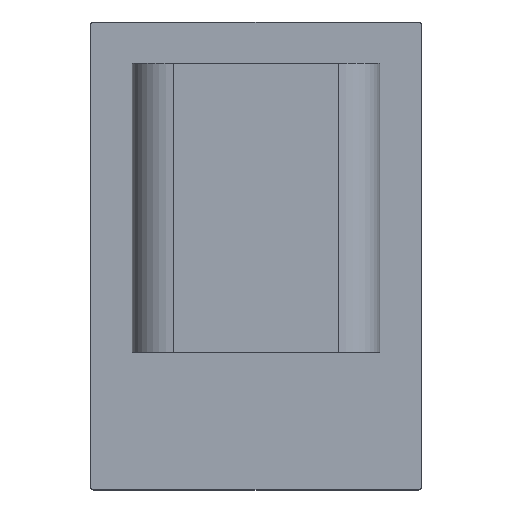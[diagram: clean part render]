
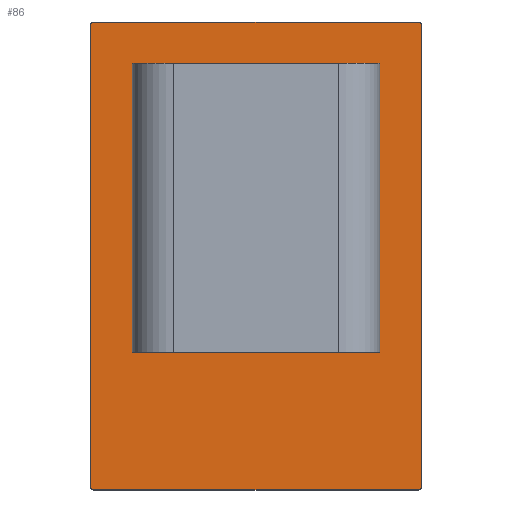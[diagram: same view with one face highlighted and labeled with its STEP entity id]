
A CAD part, top view. The second image highlights one B-rep face of the part: STEP entity #86.
In plain terms, the highlighted planar face has unit normal (0, 0, 1).
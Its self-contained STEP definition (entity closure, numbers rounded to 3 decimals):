
#7 = CIRCLE ( 'NONE', #1528, 51. ) ;
#24 = VECTOR ( 'NONE', #1769, 1000. ) ;
#43 = EDGE_CURVE ( 'NONE', #1497, #1481, #1710, .T. ) ;
#66 = CARTESIAN_POINT ( 'NONE',  ( -120., 170., 2.5 ) ) ;
#79 = DIRECTION ( 'NONE',  ( 0., 0., 1. ) ) ;
#86 = ADVANCED_FACE ( 'NONE', ( #1495, #1890 ), #700, .T. ) ;
#91 = DIRECTION ( 'NONE',  ( 0., 1., 0. ) ) ;
#102 = CIRCLE ( 'NONE', #1382, 2. ) ;
#103 = ORIENTED_EDGE ( 'NONE', *, *, #502, .T. ) ;
#111 = ORIENTED_EDGE ( 'NONE', *, *, #431, .F. ) ;
#143 = LINE ( 'NONE', #66, #1737 ) ;
#148 = CARTESIAN_POINT ( 'NONE',  ( 0., 35., 2.5 ) ) ;
#155 = ORIENTED_EDGE ( 'NONE', *, *, #1484, .T. ) ;
#157 = DIRECTION ( 'NONE',  ( 0., 0., 1. ) ) ;
#165 = CARTESIAN_POINT ( 'NONE',  ( 118., 170., 2.5 ) ) ;
#211 = DIRECTION ( 'NONE',  ( 0., -1., 0. ) ) ;
#224 = CARTESIAN_POINT ( 'NONE',  ( 0., 35., 2.5 ) ) ;
#232 = CARTESIAN_POINT ( 'NONE',  ( -118., 170., 2.5 ) ) ;
#233 = CARTESIAN_POINT ( 'NONE',  ( -120., 170., 2.5 ) ) ;
#237 = DIRECTION ( 'NONE',  ( 0., -1., 0. ) ) ;
#247 = VERTEX_POINT ( 'NONE', #1937 ) ;
#261 = CARTESIAN_POINT ( 'NONE',  ( 118., 168., 2.5 ) ) ;
#263 = CARTESIAN_POINT ( 'NONE',  ( 120., 170., 2.5 ) ) ;
#294 = EDGE_LOOP ( 'NONE', ( #1280, #111 ) ) ;
#323 = AXIS2_PLACEMENT_3D ( 'NONE', #261, #79, #237 ) ;
#347 = EDGE_CURVE ( 'NONE', #396, #787, #1186, .T. ) ;
#352 = DIRECTION ( 'NONE',  ( 0., 0., 1. ) ) ;
#394 = ORIENTED_EDGE ( 'NONE', *, *, #43, .T. ) ;
#396 = VERTEX_POINT ( 'NONE', #232 ) ;
#431 = EDGE_CURVE ( 'NONE', #1210, #476, #7, .T. ) ;
#432 = EDGE_LOOP ( 'NONE', ( #103, #755, #155, #394, #950, #1930, #1962, #1517 ) ) ;
#476 = VERTEX_POINT ( 'NONE', #1686 ) ;
#489 = CARTESIAN_POINT ( 'NONE',  ( 118., -168., 2.5 ) ) ;
#494 = CIRCLE ( 'NONE', #773, 2. ) ;
#502 = EDGE_CURVE ( 'NONE', #247, #789, #1735, .T. ) ;
#507 = CARTESIAN_POINT ( 'NONE',  ( -118., -168., 2.5 ) ) ;
#691 = CARTESIAN_POINT ( 'NONE',  ( 118., -170., 2.5 ) ) ;
#700 = PLANE ( 'NONE',  #1313 ) ;
#755 = ORIENTED_EDGE ( 'NONE', *, *, #847, .T. ) ;
#756 = CIRCLE ( 'NONE', #1817, 51. ) ;
#773 = AXIS2_PLACEMENT_3D ( 'NONE', #507, #352, #1423 ) ;
#787 = VERTEX_POINT ( 'NONE', #1147 ) ;
#789 = VERTEX_POINT ( 'NONE', #691 ) ;
#804 = DIRECTION ( 'NONE',  ( 0., 0., 1. ) ) ;
#847 = EDGE_CURVE ( 'NONE', #789, #1524, #102, .T. ) ;
#853 = DIRECTION ( 'NONE',  ( 0., 0., 1. ) ) ;
#915 = EDGE_CURVE ( 'NONE', #953, #247, #494, .T. ) ;
#926 = VECTOR ( 'NONE', #1220, 1000. ) ;
#940 = DIRECTION ( 'NONE',  ( 0., -1., 0. ) ) ;
#946 = CARTESIAN_POINT ( 'NONE',  ( -120., -168., 2.5 ) ) ;
#950 = ORIENTED_EDGE ( 'NONE', *, *, #1732, .T. ) ;
#953 = VERTEX_POINT ( 'NONE', #946 ) ;
#988 = CARTESIAN_POINT ( 'NONE',  ( 0., 86., 2.5 ) ) ;
#1020 = CARTESIAN_POINT ( 'NONE',  ( 120., -168., 2.5 ) ) ;
#1115 = VECTOR ( 'NONE', #91, 1000. ) ;
#1132 = DIRECTION ( 'NONE',  ( -1., 0., 0. ) ) ;
#1147 = CARTESIAN_POINT ( 'NONE',  ( -120., 168., 2.5 ) ) ;
#1186 = CIRCLE ( 'NONE', #1258, 2. ) ;
#1201 = LINE ( 'NONE', #233, #24 ) ;
#1210 = VERTEX_POINT ( 'NONE', #988 ) ;
#1220 = DIRECTION ( 'NONE',  ( 1., 0., 0. ) ) ;
#1258 = AXIS2_PLACEMENT_3D ( 'NONE', #1905, #1451, #1306 ) ;
#1280 = ORIENTED_EDGE ( 'NONE', *, *, #1768, .F. ) ;
#1306 = DIRECTION ( 'NONE',  ( 0., -1., 0. ) ) ;
#1311 = CARTESIAN_POINT ( 'NONE',  ( 0., 0., 2.5 ) ) ;
#1313 = AXIS2_PLACEMENT_3D ( 'NONE', #1311, #853, #1940 ) ;
#1382 = AXIS2_PLACEMENT_3D ( 'NONE', #489, #804, #1551 ) ;
#1423 = DIRECTION ( 'NONE',  ( 0., -1., 0. ) ) ;
#1451 = DIRECTION ( 'NONE',  ( 0., 0., 1. ) ) ;
#1481 = VERTEX_POINT ( 'NONE', #165 ) ;
#1484 = EDGE_CURVE ( 'NONE', #1524, #1497, #1918, .T. ) ;
#1495 = FACE_BOUND ( 'NONE', #294, .T. ) ;
#1497 = VERTEX_POINT ( 'NONE', #1943 ) ;
#1517 = ORIENTED_EDGE ( 'NONE', *, *, #915, .T. ) ;
#1524 = VERTEX_POINT ( 'NONE', #1020 ) ;
#1528 = AXIS2_PLACEMENT_3D ( 'NONE', #148, #157, #940 ) ;
#1551 = DIRECTION ( 'NONE',  ( 0., -1., 0. ) ) ;
#1600 = DIRECTION ( 'NONE',  ( 0., 0., 1. ) ) ;
#1686 = CARTESIAN_POINT ( 'NONE',  ( 0., -16., 2.5 ) ) ;
#1710 = CIRCLE ( 'NONE', #323, 2. ) ;
#1732 = EDGE_CURVE ( 'NONE', #1481, #396, #143, .T. ) ;
#1735 = LINE ( 'NONE', #1853, #926 ) ;
#1737 = VECTOR ( 'NONE', #1132, 1000. ) ;
#1768 = EDGE_CURVE ( 'NONE', #476, #1210, #756, .T. ) ;
#1769 = DIRECTION ( 'NONE',  ( 0., -1., 0. ) ) ;
#1798 = EDGE_CURVE ( 'NONE', #787, #953, #1201, .T. ) ;
#1817 = AXIS2_PLACEMENT_3D ( 'NONE', #224, #1600, #211 ) ;
#1853 = CARTESIAN_POINT ( 'NONE',  ( -120., -170., 2.5 ) ) ;
#1890 = FACE_OUTER_BOUND ( 'NONE', #432, .T. ) ;
#1905 = CARTESIAN_POINT ( 'NONE',  ( -118., 168., 2.5 ) ) ;
#1918 = LINE ( 'NONE', #263, #1115 ) ;
#1930 = ORIENTED_EDGE ( 'NONE', *, *, #347, .T. ) ;
#1937 = CARTESIAN_POINT ( 'NONE',  ( -118., -170., 2.5 ) ) ;
#1940 = DIRECTION ( 'NONE',  ( 0., -1., 0. ) ) ;
#1943 = CARTESIAN_POINT ( 'NONE',  ( 120., 168., 2.5 ) ) ;
#1962 = ORIENTED_EDGE ( 'NONE', *, *, #1798, .T. ) ;
